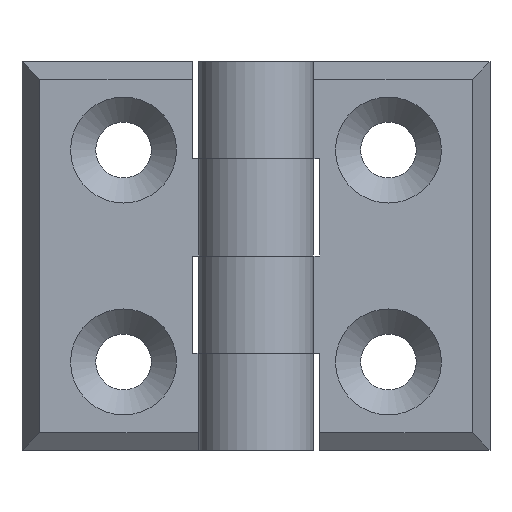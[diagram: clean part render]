
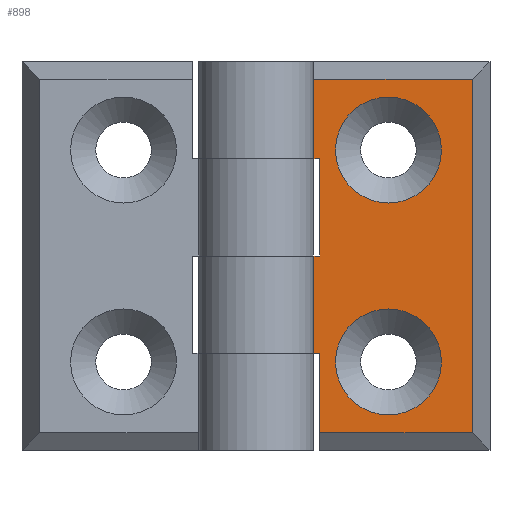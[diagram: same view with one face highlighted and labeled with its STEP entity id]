
A CAD part, front view. The second image highlights one B-rep face of the part: STEP entity #898.
In plain terms, the highlighted planar face has unit normal (0, -1, 0).
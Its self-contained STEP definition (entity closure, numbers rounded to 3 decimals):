
#109=CARTESIAN_POINT('',(15.551,-1.095,10.));
#110=VERTEX_POINT('',#109);
#111=CARTESIAN_POINT('',(9.551,-1.095,10.));
#112=DIRECTION('',(0.0,1.0,0.0));
#113=DIRECTION('',(1.0,0.0,0.0));
#114=AXIS2_PLACEMENT_3D('',#111,#112,#113);
#115=CIRCLE('',#114,6.);
#116=EDGE_CURVE('',#110,#110,#115,.T.);
#199=CARTESIAN_POINT('',(15.551,-1.095,34.0));
#200=VERTEX_POINT('',#199);
#201=CARTESIAN_POINT('',(9.551,-1.095,34.0));
#202=DIRECTION('',(0.0,1.0,0.0));
#203=DIRECTION('',(1.0,0.0,0.0));
#204=AXIS2_PLACEMENT_3D('',#201,#202,#203);
#205=CIRCLE('',#204,6.);
#206=EDGE_CURVE('',#200,#200,#205,.T.);
#268=CARTESIAN_POINT('',(1.751,-1.095,22.0));
#269=VERTEX_POINT('',#268);
#270=CARTESIAN_POINT('',(0.973,-1.095,22.0));
#271=VERTEX_POINT('',#270);
#272=CARTESIAN_POINT('',(1.751,-1.095,22.0));
#273=DIRECTION('',(-1.0,0.0,0.0));
#274=VECTOR('',#273,0.777);
#275=LINE('',#272,#274);
#276=EDGE_CURVE('',#269,#271,#275,.T.);
#337=CARTESIAN_POINT('',(0.973,-1.095,33.0));
#338=VERTEX_POINT('',#337);
#339=CARTESIAN_POINT('',(1.751,-1.095,33.0));
#340=VERTEX_POINT('',#339);
#341=CARTESIAN_POINT('',(0.973,-1.095,33.0));
#342=DIRECTION('',(1.0,0.0,0.0));
#343=VECTOR('',#342,0.777);
#344=LINE('',#341,#343);
#345=EDGE_CURVE('',#338,#340,#344,.T.);
#406=CARTESIAN_POINT('',(1.751,-1.095,33.0));
#407=DIRECTION('',(0.0,0.0,-1.0));
#408=VECTOR('',#407,11.0);
#409=LINE('',#406,#408);
#410=EDGE_CURVE('',#340,#269,#409,.T.);
#428=CARTESIAN_POINT('',(1.751,-1.095,11.0));
#429=VERTEX_POINT('',#428);
#430=CARTESIAN_POINT('',(1.751,-1.095,2.));
#431=VERTEX_POINT('',#430);
#432=CARTESIAN_POINT('',(1.751,-1.095,11.0));
#433=DIRECTION('',(0.0,0.0,-1.0));
#434=VECTOR('',#433,9.0);
#435=LINE('',#432,#434);
#436=EDGE_CURVE('',#429,#431,#435,.T.);
#493=CARTESIAN_POINT('',(0.973,-1.095,11.0));
#494=VERTEX_POINT('',#493);
#495=CARTESIAN_POINT('',(0.973,-1.095,11.0));
#496=DIRECTION('',(1.0,0.0,0.0));
#497=VECTOR('',#496,0.777);
#498=LINE('',#495,#497);
#499=EDGE_CURVE('',#494,#429,#498,.T.);
#633=CARTESIAN_POINT('',(0.973,-1.095,42.0));
#634=VERTEX_POINT('',#633);
#635=CARTESIAN_POINT('',(0.973,-1.095,33.0));
#636=DIRECTION('',(0.0,0.0,1.0));
#637=VECTOR('',#636,9.0);
#638=LINE('',#635,#637);
#639=EDGE_CURVE('',#338,#634,#638,.T.);
#680=CARTESIAN_POINT('',(0.973,-1.095,11.0));
#681=DIRECTION('',(0.0,0.0,1.0));
#682=VECTOR('',#681,11.0);
#683=LINE('',#680,#682);
#684=EDGE_CURVE('',#494,#271,#683,.T.);
#721=CARTESIAN_POINT('',(19.051,-1.095,2.0));
#722=VERTEX_POINT('',#721);
#729=CARTESIAN_POINT('',(1.751,-1.095,2.));
#730=DIRECTION('',(1.0,0.0,0.0));
#731=VECTOR('',#730,17.3);
#732=LINE('',#729,#731);
#733=EDGE_CURVE('',#431,#722,#732,.T.);
#757=CARTESIAN_POINT('',(19.051,-1.095,42.0));
#758=VERTEX_POINT('',#757);
#787=CARTESIAN_POINT('',(19.051,-1.095,42.0));
#788=DIRECTION('',(-1.0,0.0,0.0));
#789=VECTOR('',#788,18.077);
#790=LINE('',#787,#789);
#791=EDGE_CURVE('',#758,#634,#790,.T.);
#842=CARTESIAN_POINT('',(19.051,-1.095,2.0));
#843=DIRECTION('',(0.0,0.0,1.0));
#844=VECTOR('',#843,40.0);
#845=LINE('',#842,#844);
#846=EDGE_CURVE('',#722,#758,#845,.T.);
#875=CARTESIAN_POINT('',(19.051,-1.095,0.0));
#876=DIRECTION('',(0.0,-1.0,0.0));
#877=DIRECTION('',(0.0,0.0,-1.0));
#878=AXIS2_PLACEMENT_3D('',#875,#876,#877);
#879=PLANE('',#878);
#880=ORIENTED_EDGE('',*,*,#276,.T.);
#881=ORIENTED_EDGE('',*,*,#684,.F.);
#882=ORIENTED_EDGE('',*,*,#499,.T.);
#883=ORIENTED_EDGE('',*,*,#436,.T.);
#884=ORIENTED_EDGE('',*,*,#733,.T.);
#885=ORIENTED_EDGE('',*,*,#846,.T.);
#886=ORIENTED_EDGE('',*,*,#791,.T.);
#887=ORIENTED_EDGE('',*,*,#639,.F.);
#888=ORIENTED_EDGE('',*,*,#345,.T.);
#889=ORIENTED_EDGE('',*,*,#410,.T.);
#890=EDGE_LOOP('',(#880,#881,#882,#883,#884,#885,#886,#887,#888,#889));
#891=FACE_OUTER_BOUND('',#890,.T.);
#892=ORIENTED_EDGE('',*,*,#116,.T.);
#893=EDGE_LOOP('',(#892));
#894=FACE_BOUND('',#893,.T.);
#895=ORIENTED_EDGE('',*,*,#206,.T.);
#896=EDGE_LOOP('',(#895));
#897=FACE_BOUND('',#896,.T.);
#898=ADVANCED_FACE('',(#891,#894,#897),#879,.T.);
